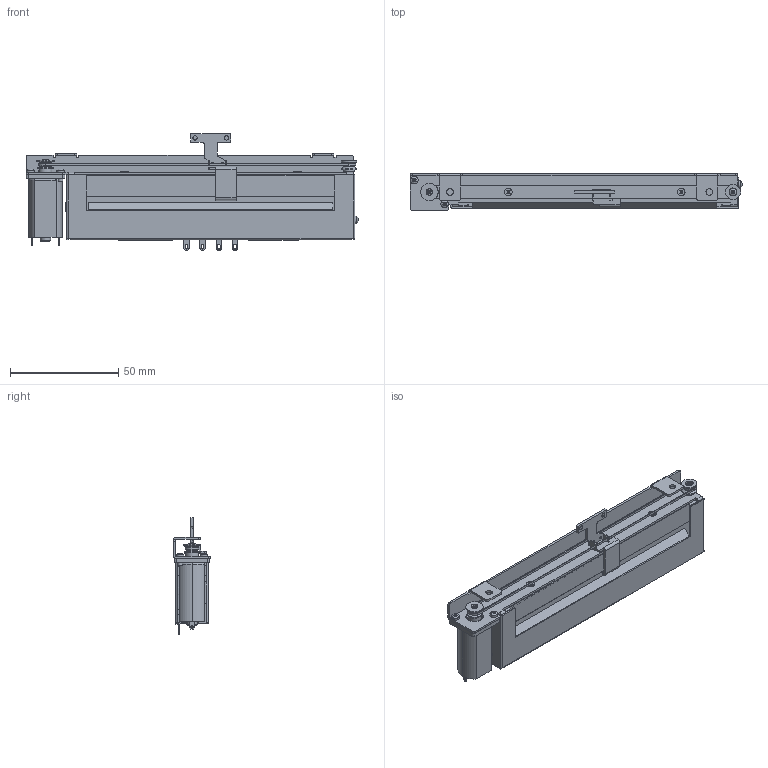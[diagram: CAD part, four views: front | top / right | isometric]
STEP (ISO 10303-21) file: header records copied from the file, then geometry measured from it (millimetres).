
FILE_DESCRIPTION(('FreeCAD Model'),'2;1');
FILE_NAME('Open CASCADE Shape Model','2024-03-05T11:30:31',(''),(''), 'Open CASCADE STEP processor 7.6','FreeCAD','Unknown');
FILE_SCHEMA(('AUTOMOTIVE_DESIGN { 1 0 10303 214 1 1 1 1 }'));
Length unit declared in the file: millimetre
Products named in the file (1): mf914-b-m8v
Bounding box: 153.67 x 17 x 54.1 mm (x, y, z)
Volume: 57602.2 mm3; surface area: 33003.2 mm2
Topology: 1 solids, 9 shells, 807 faces, 2057 edges, 1287 vertices
Faces by surface type: plane 548, cylinder 174, cone 47, bspline 18, torus 9, sphere 6, revolution 5
Full cylindrical faces by diameter (mm): 1.1 x2, 1.2 x6, 1.25 x2, 1.46 x1, 1.5 x3, 1.6 x2, 2 x17, 2.1 x1, 2.2 x7, 2.4 x2, 2.6 x3, 3 x4, 3.03 x1, 3.5 x4, 3.6 x2, 3.7 x1, 4 x6, 4.7 x2, 4.75 x1, 5 x1, 5.38 x1, 6 x1, 6.5 x1, 7 x3, 8 x1, 8.2 x1
Entity records: 52833 total; most frequent: CARTESIAN_POINT 12942, DIRECTION 7043, ORIENTED_EDGE 4110, PCURVE 4102, DEFINITIONAL_REPRESENTATION 4102, LINE 3892, VECTOR 3892, EDGE_CURVE 2051
